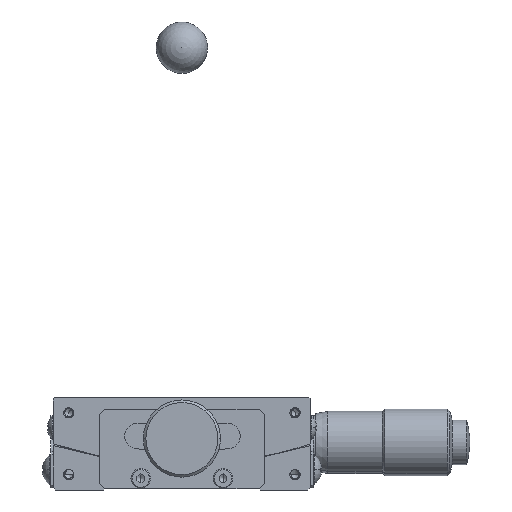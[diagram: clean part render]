
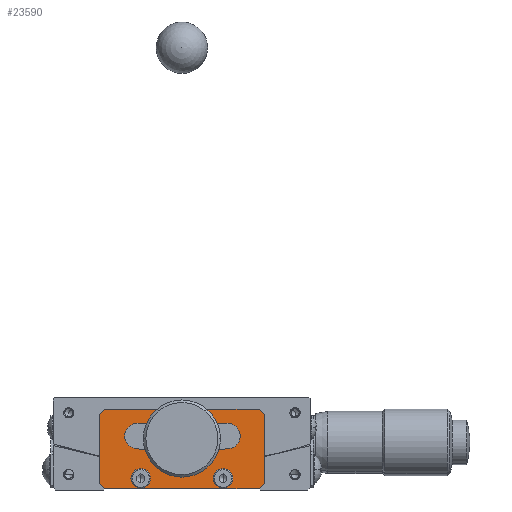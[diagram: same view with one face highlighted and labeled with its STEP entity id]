
A CAD part, front view. The second image highlights one B-rep face of the part: STEP entity #23590.
In plain terms, the highlighted planar face has unit normal (0, -1, 0).
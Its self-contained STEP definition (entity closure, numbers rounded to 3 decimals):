
#3278 = CIRCLE ( 'NONE', #3335, 1.7 ) ;
#3332 = DIRECTION ( 'NONE',  ( 1., 0., 0. ) ) ;
#3333 = DIRECTION ( 'NONE',  ( 0., 1., 0. ) ) ;
#3334 = CARTESIAN_POINT ( 'NONE',  ( -8., -26.5, 2.25 ) ) ;
#3335 = AXIS2_PLACEMENT_3D ( 'NONE', #3334, #3333, #3332 ) ;
#3807 = DIRECTION ( 'NONE',  ( 1., 0., 0. ) ) ;
#3808 = DIRECTION ( 'NONE',  ( 0., 1., 0. ) ) ;
#3809 = CARTESIAN_POINT ( 'NONE',  ( 8., -26.5, 2.25 ) ) ;
#3810 = AXIS2_PLACEMENT_3D ( 'NONE', #3809, #3808, #3807 ) ;
#3811 = CIRCLE ( 'NONE', #3810, 1.7 ) ;
#4108 = CARTESIAN_POINT ( 'NONE',  ( -15., -26.5, 0.25 ) ) ;
#4128 = CARTESIAN_POINT ( 'NONE',  ( -16., -26.5, 1.25 ) ) ;
#4129 = DIRECTION ( 'NONE',  ( -0.707, 0., 0.707 ) ) ;
#4130 = VECTOR ( 'NONE', #4129, 1000. ) ;
#4131 = CARTESIAN_POINT ( 'NONE',  ( -15., -26.5, 0.25 ) ) ;
#4132 = LINE ( 'NONE', #4131, #4130 ) ;
#4214 = CARTESIAN_POINT ( 'NONE',  ( -16., -26.5, 14.75 ) ) ;
#4215 = DIRECTION ( 'NONE',  ( 0., 0., 1. ) ) ;
#4216 = VECTOR ( 'NONE', #4215, 1000. ) ;
#4217 = CARTESIAN_POINT ( 'NONE',  ( -16., -26.5, 1.25 ) ) ;
#4218 = LINE ( 'NONE', #4217, #4216 ) ;
#4253 = CARTESIAN_POINT ( 'NONE',  ( -15., -26.5, 15.75 ) ) ;
#4254 = DIRECTION ( 'NONE',  ( 0.707, 0., 0.707 ) ) ;
#4255 = VECTOR ( 'NONE', #4254, 1000. ) ;
#4256 = CARTESIAN_POINT ( 'NONE',  ( -16., -26.5, 14.75 ) ) ;
#4257 = LINE ( 'NONE', #4256, #4255 ) ;
#4282 = CARTESIAN_POINT ( 'NONE',  ( 16., -26.5, 14.75 ) ) ;
#4283 = DIRECTION ( 'NONE',  ( 0.707, 0., -0.707 ) ) ;
#4284 = VECTOR ( 'NONE', #4283, 1000. ) ;
#4285 = CARTESIAN_POINT ( 'NONE',  ( 15., -26.5, 15.75 ) ) ;
#4286 = LINE ( 'NONE', #4285, #4284 ) ;
#4292 = CARTESIAN_POINT ( 'NONE',  ( 15., -26.5, 0.25 ) ) ;
#4293 = DIRECTION ( 'NONE',  ( -0.707, 0., -0.707 ) ) ;
#4294 = VECTOR ( 'NONE', #4293, 1000. ) ;
#4295 = CARTESIAN_POINT ( 'NONE',  ( 16., -26.5, 1.25 ) ) ;
#4296 = LINE ( 'NONE', #4295, #4294 ) ;
#4349 = CARTESIAN_POINT ( 'NONE',  ( -8.886, -26.5, 8.005 ) ) ;
#4350 = DIRECTION ( 'NONE',  ( -1., 0., 0. ) ) ;
#4351 = DIRECTION ( 'NONE',  ( 0., 1., 0. ) ) ;
#4352 = CARTESIAN_POINT ( 'NONE',  ( 0., -26.5, 86. ) ) ;
#4353 = AXIS2_PLACEMENT_3D ( 'NONE', #4352, #4351, #4350 ) ;
#4354 = CIRCLE ( 'NONE', #4353, 78.5 ) ;
#4355 = CARTESIAN_POINT ( 'NONE',  ( 9.128, -26.5, 8.032 ) ) ;
#4356 = CARTESIAN_POINT ( 'NONE',  ( 8.546, -26.5, 12.999 ) ) ;
#4357 = DIRECTION ( 'NONE',  ( -1., 0., 0. ) ) ;
#4358 = DIRECTION ( 'NONE',  ( 0., 1., 0. ) ) ;
#4359 = CARTESIAN_POINT ( 'NONE',  ( 8.837, -26.5, 10.516 ) ) ;
#4360 = AXIS2_PLACEMENT_3D ( 'NONE', #4359, #4358, #4357 ) ;
#4361 = CIRCLE ( 'NONE', #4360, 2.5 ) ;
#4362 = DIRECTION ( 'NONE',  ( -1., 0., 0. ) ) ;
#4363 = DIRECTION ( 'NONE',  ( 0., 1., 0. ) ) ;
#4364 = CARTESIAN_POINT ( 'NONE',  ( -22.75, -26.5, 8. ) ) ;
#4365 = AXIS2_PLACEMENT_3D ( 'NONE', #4364, #4363, #4362 ) ;
#4366 = PLANE ( 'NONE',  #4365 ) ;
#4367 = FACE_OUTER_BOUND ( 'NONE', #23668, .T. ) ;
#4368 = FACE_BOUND ( 'NONE', #23597, .T. ) ;
#4369 = FACE_BOUND ( 'NONE', #23594, .T. ) ;
#4370 = FACE_BOUND ( 'NONE', #23591, .T. ) ;
#4371 = CARTESIAN_POINT ( 'NONE',  ( 15., -26.5, 15.75 ) ) ;
#4372 = DIRECTION ( 'NONE',  ( 1., 0., 0. ) ) ;
#4373 = VECTOR ( 'NONE', #4372, 1000. ) ;
#4374 = CARTESIAN_POINT ( 'NONE',  ( -15., -26.5, 15.75 ) ) ;
#4375 = LINE ( 'NONE', #4374, #4373 ) ;
#4391 = DIRECTION ( 'NONE',  ( -1., 0., 0. ) ) ;
#4392 = VECTOR ( 'NONE', #4391, 1000. ) ;
#4393 = CARTESIAN_POINT ( 'NONE',  ( 15., -26.5, 0.25 ) ) ;
#4394 = LINE ( 'NONE', #4393, #4392 ) ;
#4427 = CARTESIAN_POINT ( 'NONE',  ( 16., -26.5, 1.25 ) ) ;
#4429 = DIRECTION ( 'NONE',  ( 0., 0., -1. ) ) ;
#4430 = VECTOR ( 'NONE', #4429, 1000. ) ;
#4431 = CARTESIAN_POINT ( 'NONE',  ( 16., -26.5, 14.75 ) ) ;
#4432 = LINE ( 'NONE', #4431, #4430 ) ;
#4488 = DIRECTION ( 'NONE',  ( 1., 0., 0. ) ) ;
#4489 = DIRECTION ( 'NONE',  ( 0., -1., 0. ) ) ;
#4490 = CARTESIAN_POINT ( 'NONE',  ( 0., -26.5, 86. ) ) ;
#4491 = AXIS2_PLACEMENT_3D ( 'NONE', #4490, #4489, #4488 ) ;
#4492 = CIRCLE ( 'NONE', #4491, 73.5 ) ;
#4493 = DIRECTION ( 'NONE',  ( -1., 0., 0. ) ) ;
#4494 = DIRECTION ( 'NONE',  ( 0., 1., 0. ) ) ;
#4495 = CARTESIAN_POINT ( 'NONE',  ( -8.603, -26.5, 10.489 ) ) ;
#4496 = AXIS2_PLACEMENT_3D ( 'NONE', #4495, #4494, #4493 ) ;
#4497 = CIRCLE ( 'NONE', #4496, 2.5 ) ;
#18617 = VERTEX_POINT ( 'NONE', #50186 ) ;
#18726 = EDGE_CURVE ( 'NONE', #18617, #18727, #50375, .T. ) ;
#18727 = VERTEX_POINT ( 'NONE', #50371 ) ;
#18824 = VERTEX_POINT ( 'NONE', #50690 ) ;
#18880 = EDGE_CURVE ( 'NONE', #18887, #18824, #50814, .T. ) ;
#18887 = VERTEX_POINT ( 'NONE', #50861 ) ;
#19880 = EDGE_CURVE ( 'NONE', #19881, #19886, #52779, .T. ) ;
#19881 = VERTEX_POINT ( 'NONE', #52774 ) ;
#19886 = VERTEX_POINT ( 'NONE', #52761 ) ;
#22980 = EDGE_CURVE ( 'NONE', #19886, #19881, #3278, .T. ) ;
#23268 = EDGE_CURVE ( 'NONE', #18824, #18887, #3811, .T. ) ;
#23439 = VERTEX_POINT ( 'NONE', #4108 ) ;
#23470 = EDGE_CURVE ( 'NONE', #23439, #23471, #4132, .T. ) ;
#23471 = VERTEX_POINT ( 'NONE', #4128 ) ;
#23491 = EDGE_CURVE ( 'NONE', #23471, #23492, #4218, .T. ) ;
#23492 = VERTEX_POINT ( 'NONE', #4214 ) ;
#23538 = EDGE_CURVE ( 'NONE', #23492, #23539, #4257, .T. ) ;
#23539 = VERTEX_POINT ( 'NONE', #4253 ) ;
#23551 = EDGE_CURVE ( 'NONE', #23624, #23552, #4296, .T. ) ;
#23552 = VERTEX_POINT ( 'NONE', #4292 ) ;
#23559 = EDGE_CURVE ( 'NONE', #23588, #23560, #4286, .T. ) ;
#23560 = VERTEX_POINT ( 'NONE', #4282 ) ;
#23587 = EDGE_CURVE ( 'NONE', #23539, #23588, #4375, .T. ) ;
#23588 = VERTEX_POINT ( 'NONE', #4371 ) ;
#23590 = ADVANCED_FACE ( 'NONE', ( #4370, #4369, #4368, #4367 ), #4366, .F. ) ;
#23591 = EDGE_LOOP ( 'NONE', ( #23592, #23593 ) ) ;
#23592 = ORIENTED_EDGE ( 'NONE', *, *, #22980, .T. ) ;
#23593 = ORIENTED_EDGE ( 'NONE', *, *, #19880, .T. ) ;
#23594 = EDGE_LOOP ( 'NONE', ( #23595, #23596 ) ) ;
#23595 = ORIENTED_EDGE ( 'NONE', *, *, #23268, .T. ) ;
#23596 = ORIENTED_EDGE ( 'NONE', *, *, #18880, .T. ) ;
#23597 = EDGE_LOOP ( 'NONE', ( #23598, #23603, #23663, #23665, #23666 ) ) ;
#23598 = ORIENTED_EDGE ( 'NONE', *, *, #23599, .T. ) ;
#23599 = EDGE_CURVE ( 'NONE', #23600, #23602, #4361, .T. ) ;
#23600 = VERTEX_POINT ( 'NONE', #4356 ) ;
#23602 = VERTEX_POINT ( 'NONE', #4355 ) ;
#23603 = ORIENTED_EDGE ( 'NONE', *, *, #23605, .T. ) ;
#23605 = EDGE_CURVE ( 'NONE', #23602, #23606, #4354, .T. ) ;
#23606 = VERTEX_POINT ( 'NONE', #4349 ) ;
#23613 = EDGE_CURVE ( 'NONE', #23552, #23439, #4394, .T. ) ;
#23622 = EDGE_CURVE ( 'NONE', #23560, #23624, #4432, .T. ) ;
#23624 = VERTEX_POINT ( 'NONE', #4427 ) ;
#23648 = ORIENTED_EDGE ( 'NONE', *, *, #23587, .F. ) ;
#23649 = ORIENTED_EDGE ( 'NONE', *, *, #23538, .F. ) ;
#23650 = ORIENTED_EDGE ( 'NONE', *, *, #23491, .F. ) ;
#23663 = ORIENTED_EDGE ( 'NONE', *, *, #23664, .T. ) ;
#23664 = EDGE_CURVE ( 'NONE', #23606, #18617, #4497, .T. ) ;
#23665 = ORIENTED_EDGE ( 'NONE', *, *, #18726, .T. ) ;
#23666 = ORIENTED_EDGE ( 'NONE', *, *, #23667, .T. ) ;
#23667 = EDGE_CURVE ( 'NONE', #18727, #23600, #4492, .T. ) ;
#23668 = EDGE_LOOP ( 'NONE', ( #23669, #23670, #23671, #23672, #23673, #23648, #23649, #23650 ) ) ;
#23669 = ORIENTED_EDGE ( 'NONE', *, *, #23470, .F. ) ;
#23670 = ORIENTED_EDGE ( 'NONE', *, *, #23613, .F. ) ;
#23671 = ORIENTED_EDGE ( 'NONE', *, *, #23551, .F. ) ;
#23672 = ORIENTED_EDGE ( 'NONE', *, *, #23622, .F. ) ;
#23673 = ORIENTED_EDGE ( 'NONE', *, *, #23559, .F. ) ;
#50186 = CARTESIAN_POINT ( 'NONE',  ( -11.103, -26.5, 10.489 ) ) ;
#50371 = CARTESIAN_POINT ( 'NONE',  ( -8.32, -26.5, 12.972 ) ) ;
#50372 = DIRECTION ( 'NONE',  ( -1., 0., 0. ) ) ;
#50373 = DIRECTION ( 'NONE',  ( 0., 1., 0. ) ) ;
#50374 = AXIS2_PLACEMENT_3D ( 'NONE', #50380, #50373, #50372 ) ;
#50375 = CIRCLE ( 'NONE', #50374, 2.5 ) ;
#50380 = CARTESIAN_POINT ( 'NONE',  ( -8.603, -26.5, 10.489 ) ) ;
#50690 = CARTESIAN_POINT ( 'NONE',  ( 6.3, -26.5, 2.25 ) ) ;
#50810 = DIRECTION ( 'NONE',  ( 1., 0., 0. ) ) ;
#50811 = DIRECTION ( 'NONE',  ( 0., 1., 0. ) ) ;
#50812 = CARTESIAN_POINT ( 'NONE',  ( 8., -26.5, 2.25 ) ) ;
#50813 = AXIS2_PLACEMENT_3D ( 'NONE', #50812, #50811, #50810 ) ;
#50814 = CIRCLE ( 'NONE', #50813, 1.7 ) ;
#50861 = CARTESIAN_POINT ( 'NONE',  ( 9.7, -26.5, 2.25 ) ) ;
#52761 = CARTESIAN_POINT ( 'NONE',  ( -9.7, -26.5, 2.25 ) ) ;
#52774 = CARTESIAN_POINT ( 'NONE',  ( -6.3, -26.5, 2.25 ) ) ;
#52775 = DIRECTION ( 'NONE',  ( 1., 0., 0. ) ) ;
#52776 = DIRECTION ( 'NONE',  ( 0., 1., 0. ) ) ;
#52777 = CARTESIAN_POINT ( 'NONE',  ( -8., -26.5, 2.25 ) ) ;
#52778 = AXIS2_PLACEMENT_3D ( 'NONE', #52777, #52776, #52775 ) ;
#52779 = CIRCLE ( 'NONE', #52778, 1.7 ) ;
